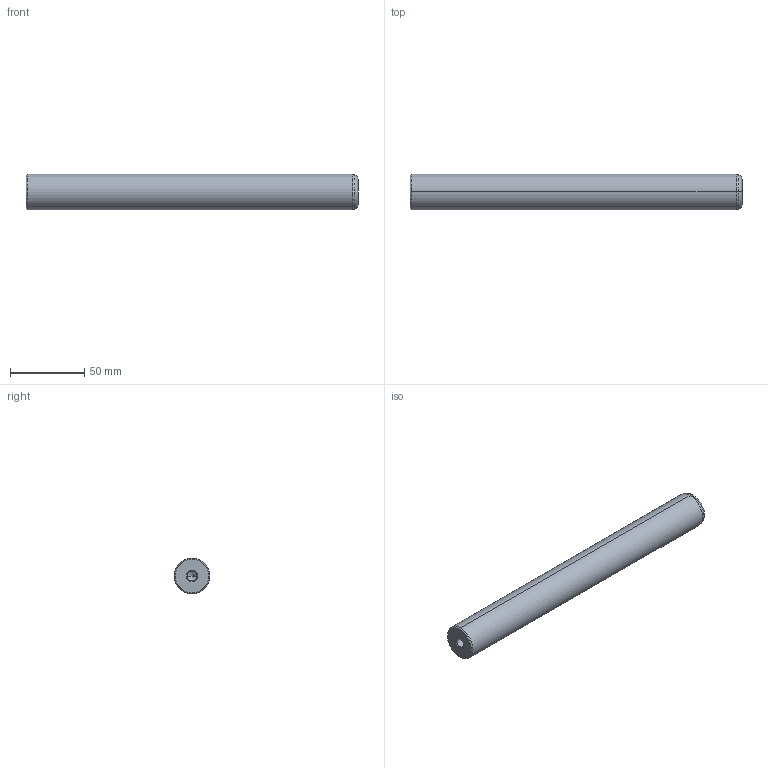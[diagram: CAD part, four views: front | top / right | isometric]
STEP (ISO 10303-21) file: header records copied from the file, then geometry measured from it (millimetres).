
FILE_DESCRIPTION(('CATIA V5 STEP Exchange'),'2;1');
FILE_NAME('C:\Users\Utente\Desktop\IO LAVORO\3D X SITO CF\X SITO\720\720-24x224.stp','2021-01-01T12:51:01+00:00',('none'),('none'),'CATIA Version 5 Release 20 GA (IN-10)','CATIA V5 STEP AP203','none');
FILE_SCHEMA(('CONFIG_CONTROL_DESIGN'));
Length unit declared in the file: millimetre
Products named in the file (1): 720-24x224
Bounding box: 224 x 24 x 24 mm (x, y, z)
Volume: 99369.4 mm3; surface area: 18629.2 mm2
Topology: 1 solids, 1 shells, 22 faces, 56 edges, 34 vertices
Faces by surface type: cone 12, cylinder 6, plane 2, torus 2
Entity records: 755 total; most frequent: CARTESIAN_POINT 216, ORIENTED_EDGE 104, DIRECTION 89, EDGE_CURVE 52, AXIS2_PLACEMENT_3D 50, VERTEX_POINT 34, CIRCLE 27, EDGE_LOOP 24
